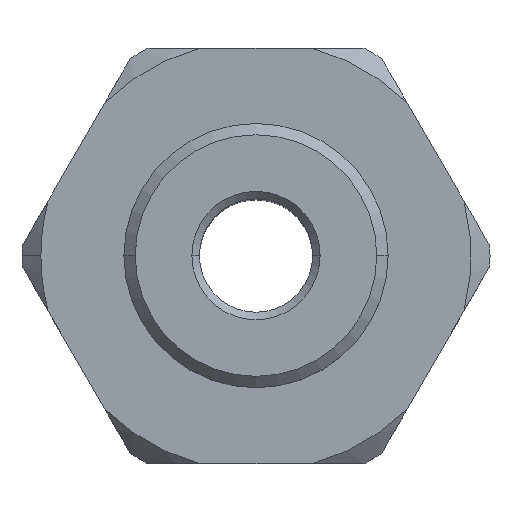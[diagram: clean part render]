
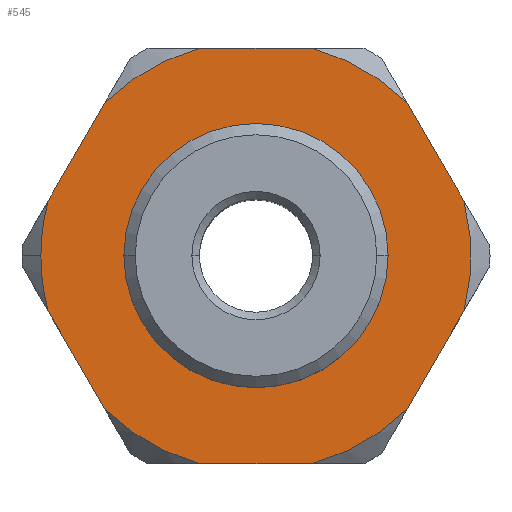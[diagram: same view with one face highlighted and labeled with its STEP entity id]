
A CAD part, top view. The second image highlights one B-rep face of the part: STEP entity #545.
In plain terms, the highlighted planar face has unit normal (0, 0, 1).
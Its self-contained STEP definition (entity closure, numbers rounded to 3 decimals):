
#9 = CARTESIAN_POINT ( 'NONE',  ( -4.015, 4.046, 10. ) ) ;
#45 = AXIS2_PLACEMENT_3D ( 'NONE', #1223, #2535, #1006 ) ;
#65 = AXIS2_PLACEMENT_3D ( 'NONE', #1178, #2715, #1395 ) ;
#67 = EDGE_LOOP ( 'NONE', ( #1540, #586 ) ) ;
#93 = VERTEX_POINT ( 'NONE', #2775 ) ;
#96 = EDGE_CURVE ( 'NONE', #528, #1586, #2295, .T. ) ;
#115 = AXIS2_PLACEMENT_3D ( 'NONE', #2371, #1079, #2613 ) ;
#131 = ORIENTED_EDGE ( 'NONE', *, *, #820, .T. ) ;
#160 = ORIENTED_EDGE ( 'NONE', *, *, #2544, .T. ) ;
#173 = DIRECTION ( 'NONE',  ( 0., 0., 1. ) ) ;
#231 = VECTOR ( 'NONE', #688, 1000. ) ;
#251 = DIRECTION ( 'NONE',  ( 0., 0., 1. ) ) ;
#313 = PLANE ( 'NONE',  #2778 ) ;
#315 = DIRECTION ( 'NONE',  ( -0.5, -0.866, 0. ) ) ;
#320 = DIRECTION ( 'NONE',  ( 1., 0., 0. ) ) ;
#327 = DIRECTION ( 'NONE',  ( 0., 0., 1. ) ) ;
#362 = AXIS2_PLACEMENT_3D ( 'NONE', #2618, #1307, #2844 ) ;
#410 = ORIENTED_EDGE ( 'NONE', *, *, #1112, .T. ) ;
#443 = FACE_BOUND ( 'NONE', #67, .T. ) ;
#489 = CIRCLE ( 'NONE', #721, 5.7 ) ;
#497 = DIRECTION ( 'NONE',  ( 0.5, -0.866, 0. ) ) ;
#528 = VERTEX_POINT ( 'NONE', #2763 ) ;
#545 = ADVANCED_FACE ( 'NONE', ( #443, #2157 ), #313, .T. ) ;
#557 = VERTEX_POINT ( 'NONE', #1693 ) ;
#586 = ORIENTED_EDGE ( 'NONE', *, *, #2246, .T. ) ;
#591 = EDGE_CURVE ( 'NONE', #93, #2219, #1513, .T. ) ;
#609 = CIRCLE ( 'NONE', #115, 2.9 ) ;
#631 = EDGE_CURVE ( 'NONE', #1004, #2601, #1377, .T. ) ;
#640 = CARTESIAN_POINT ( 'NONE',  ( -1.497, 5.5, 10. ) ) ;
#645 = ORIENTED_EDGE ( 'NONE', *, *, #2489, .T. ) ;
#688 = DIRECTION ( 'NONE',  ( 0.5, 0.866, 0. ) ) ;
#700 = CARTESIAN_POINT ( 'NONE',  ( 0., 0., 10. ) ) ;
#709 = EDGE_CURVE ( 'NONE', #2287, #1871, #1815, .T. ) ;
#721 = AXIS2_PLACEMENT_3D ( 'NONE', #1541, #173, #1759 ) ;
#764 = VECTOR ( 'NONE', #1607, 1000. ) ;
#820 = EDGE_CURVE ( 'NONE', #557, #2684, #2124, .T. ) ;
#935 = DIRECTION ( 'NONE',  ( 1., 0., 0. ) ) ;
#991 = LINE ( 'NONE', #2768, #2092 ) ;
#1004 = VERTEX_POINT ( 'NONE', #2431 ) ;
#1006 = DIRECTION ( 'NONE',  ( 1., 0., 0. ) ) ;
#1027 = CIRCLE ( 'NONE', #2608, 5.7 ) ;
#1079 = DIRECTION ( 'NONE',  ( 0., 0., -1. ) ) ;
#1092 = AXIS2_PLACEMENT_3D ( 'NONE', #1093, #2626, #1314 ) ;
#1093 = CARTESIAN_POINT ( 'NONE',  ( 0., 0., 10. ) ) ;
#1112 = EDGE_CURVE ( 'NONE', #2494, #1502, #991, .T. ) ;
#1156 = CARTESIAN_POINT ( 'NONE',  ( 2.7, 5.5, 10. ) ) ;
#1178 = CARTESIAN_POINT ( 'NONE',  ( 0., 0., 10. ) ) ;
#1182 = VECTOR ( 'NONE', #2363, 1000. ) ;
#1223 = CARTESIAN_POINT ( 'NONE',  ( 0., 0., 10. ) ) ;
#1275 = ORIENTED_EDGE ( 'NONE', *, *, #2478, .T. ) ;
#1307 = DIRECTION ( 'NONE',  ( 0., 0., 1. ) ) ;
#1314 = DIRECTION ( 'NONE',  ( 1., 0., 0. ) ) ;
#1318 = EDGE_CURVE ( 'NONE', #2684, #93, #1599, .T. ) ;
#1326 = CARTESIAN_POINT ( 'NONE',  ( 4.015, 4.046, 10. ) ) ;
#1329 = ORIENTED_EDGE ( 'NONE', *, *, #631, .T. ) ;
#1377 = LINE ( 'NONE', #1156, #764 ) ;
#1395 = DIRECTION ( 'NONE',  ( 1., 0., 0. ) ) ;
#1459 = DIRECTION ( 'NONE',  ( 1., 0., 0. ) ) ;
#1467 = EDGE_CURVE ( 'NONE', #1681, #2113, #2864, .T. ) ;
#1502 = VERTEX_POINT ( 'NONE', #2392 ) ;
#1513 = LINE ( 'NONE', #2362, #231 ) ;
#1519 = EDGE_CURVE ( 'NONE', #1872, #2287, #489, .T. ) ;
#1540 = ORIENTED_EDGE ( 'NONE', *, *, #96, .T. ) ;
#1541 = CARTESIAN_POINT ( 'NONE',  ( 0., 0., 10. ) ) ;
#1551 = VECTOR ( 'NONE', #320, 1000. ) ;
#1586 = VERTEX_POINT ( 'NONE', #1769 ) ;
#1594 = ORIENTED_EDGE ( 'NONE', *, *, #2738, .T. ) ;
#1599 = CIRCLE ( 'NONE', #1092, 5.7 ) ;
#1607 = DIRECTION ( 'NONE',  ( -1., 0., 0. ) ) ;
#1614 = CARTESIAN_POINT ( 'NONE',  ( 0., 0., 10. ) ) ;
#1680 = CARTESIAN_POINT ( 'NONE',  ( -4.015, -4.046, 10. ) ) ;
#1681 = VERTEX_POINT ( 'NONE', #2182 ) ;
#1687 = CARTESIAN_POINT ( 'NONE',  ( 0., 0., 10. ) ) ;
#1693 = CARTESIAN_POINT ( 'NONE',  ( -1.497, -5.5, 10. ) ) ;
#1718 = CIRCLE ( 'NONE', #65, 5.7 ) ;
#1759 = DIRECTION ( 'NONE',  ( 1., 0., 0. ) ) ;
#1769 = CARTESIAN_POINT ( 'NONE',  ( -2.9, 0., 10. ) ) ;
#1779 = EDGE_LOOP ( 'NONE', ( #2624, #1916, #160, #2621, #1887, #1329, #1275, #410, #1594, #2271, #2679, #645, #131 ) ) ;
#1783 = CIRCLE ( 'NONE', #2670, 5.7 ) ;
#1815 = LINE ( 'NONE', #2729, #2318 ) ;
#1823 = DIRECTION ( 'NONE',  ( 1., 0., 0. ) ) ;
#1871 = VERTEX_POINT ( 'NONE', #1680 ) ;
#1872 = VERTEX_POINT ( 'NONE', #1886 ) ;
#1886 = CARTESIAN_POINT ( 'NONE',  ( -5.7, 0., 10. ) ) ;
#1887 = ORIENTED_EDGE ( 'NONE', *, *, #1892, .T. ) ;
#1892 = EDGE_CURVE ( 'NONE', #2113, #1004, #2507, .T. ) ;
#1897 = DIRECTION ( 'NONE',  ( 1., 0., 0. ) ) ;
#1916 = ORIENTED_EDGE ( 'NONE', *, *, #591, .T. ) ;
#1936 = CARTESIAN_POINT ( 'NONE',  ( 5.438, 1.581, 10. ) ) ;
#2092 = VECTOR ( 'NONE', #315, 1000. ) ;
#2113 = VERTEX_POINT ( 'NONE', #1326 ) ;
#2124 = LINE ( 'NONE', #2545, #1551 ) ;
#2157 = FACE_OUTER_BOUND ( 'NONE', #1779, .T. ) ;
#2182 = CARTESIAN_POINT ( 'NONE',  ( 5.511, 1.454, 10. ) ) ;
#2219 = VERTEX_POINT ( 'NONE', #2365 ) ;
#2246 = EDGE_CURVE ( 'NONE', #1586, #528, #609, .T. ) ;
#2247 = DIRECTION ( 'NONE',  ( 0., 0., 1. ) ) ;
#2271 = ORIENTED_EDGE ( 'NONE', *, *, #1519, .T. ) ;
#2287 = VERTEX_POINT ( 'NONE', #2395 ) ;
#2295 = CIRCLE ( 'NONE', #45, 2.9 ) ;
#2311 = CARTESIAN_POINT ( 'NONE',  ( 2.7, 0., 10. ) ) ;
#2318 = VECTOR ( 'NONE', #497, 1000. ) ;
#2362 = CARTESIAN_POINT ( 'NONE',  ( 5.438, -1.581, 10. ) ) ;
#2363 = DIRECTION ( 'NONE',  ( -0.5, 0.866, 0. ) ) ;
#2365 = CARTESIAN_POINT ( 'NONE',  ( 5.511, -1.454, 10. ) ) ;
#2371 = CARTESIAN_POINT ( 'NONE',  ( 0., 0., 10. ) ) ;
#2392 = CARTESIAN_POINT ( 'NONE',  ( -5.511, 1.454, 10. ) ) ;
#2395 = CARTESIAN_POINT ( 'NONE',  ( -5.511, -1.454, 10. ) ) ;
#2431 = CARTESIAN_POINT ( 'NONE',  ( 1.497, 5.5, 10. ) ) ;
#2478 = EDGE_CURVE ( 'NONE', #2601, #2494, #1783, .T. ) ;
#2489 = EDGE_CURVE ( 'NONE', #1871, #557, #1718, .T. ) ;
#2494 = VERTEX_POINT ( 'NONE', #9 ) ;
#2507 = CIRCLE ( 'NONE', #2592, 5.7 ) ;
#2535 = DIRECTION ( 'NONE',  ( 0., 0., -1. ) ) ;
#2544 = EDGE_CURVE ( 'NONE', #2219, #1681, #2748, .T. ) ;
#2545 = CARTESIAN_POINT ( 'NONE',  ( 2.7, -5.5, 10. ) ) ;
#2592 = AXIS2_PLACEMENT_3D ( 'NONE', #1687, #327, #1897 ) ;
#2601 = VERTEX_POINT ( 'NONE', #640 ) ;
#2608 = AXIS2_PLACEMENT_3D ( 'NONE', #700, #2247, #935 ) ;
#2613 = DIRECTION ( 'NONE',  ( 1., 0., 0. ) ) ;
#2618 = CARTESIAN_POINT ( 'NONE',  ( 0., 0., 10. ) ) ;
#2621 = ORIENTED_EDGE ( 'NONE', *, *, #1467, .T. ) ;
#2624 = ORIENTED_EDGE ( 'NONE', *, *, #1318, .T. ) ;
#2626 = DIRECTION ( 'NONE',  ( 0., 0., 1. ) ) ;
#2662 = CARTESIAN_POINT ( 'NONE',  ( 1.497, -5.5, 10. ) ) ;
#2670 = AXIS2_PLACEMENT_3D ( 'NONE', #1614, #251, #1823 ) ;
#2679 = ORIENTED_EDGE ( 'NONE', *, *, #709, .T. ) ;
#2684 = VERTEX_POINT ( 'NONE', #2662 ) ;
#2715 = DIRECTION ( 'NONE',  ( 0., 0., 1. ) ) ;
#2729 = CARTESIAN_POINT ( 'NONE',  ( -4.088, -3.919, 10. ) ) ;
#2738 = EDGE_CURVE ( 'NONE', #1502, #1872, #1027, .T. ) ;
#2748 = CIRCLE ( 'NONE', #362, 5.7 ) ;
#2763 = CARTESIAN_POINT ( 'NONE',  ( 2.9, 0., 10. ) ) ;
#2768 = CARTESIAN_POINT ( 'NONE',  ( -4.088, 3.919, 10. ) ) ;
#2774 = DIRECTION ( 'NONE',  ( 0., 0., 1. ) ) ;
#2775 = CARTESIAN_POINT ( 'NONE',  ( 4.015, -4.046, 10. ) ) ;
#2778 = AXIS2_PLACEMENT_3D ( 'NONE', #2311, #2774, #1459 ) ;
#2844 = DIRECTION ( 'NONE',  ( 1., 0., 0. ) ) ;
#2864 = LINE ( 'NONE', #1936, #1182 ) ;
